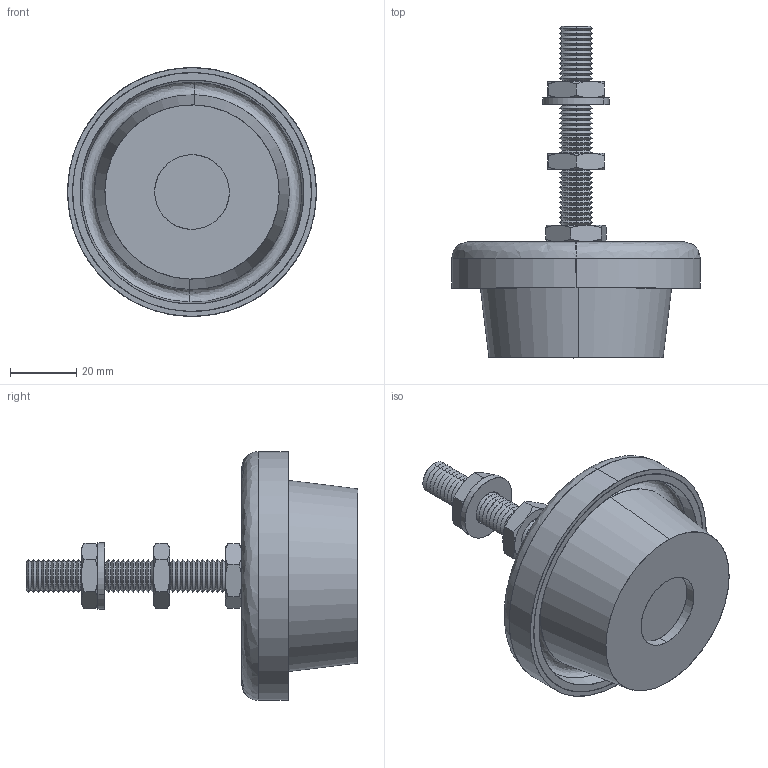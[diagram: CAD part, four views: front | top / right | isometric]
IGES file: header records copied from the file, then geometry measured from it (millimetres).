
Start section: SolidWorks IGES file using analytic representation for surfaces
Global section: file name: C:\Documents and Settings\IANO\Desktop\Temp File\Process pending\EXISTING\34940_v2\34940_v2_20170627_IGES\34940.W0075.igs; native system: SolidWorks 2009; preprocessor: SolidWorks 2009; author: IANO; date: 170626.132422; units: millimetre
Bounding box: 75 x 100 x 75 mm (x, y, z)
Surface area: 48255.5 mm2 (no closed solid volume)
Topology: 0 solids, 0 shells, 362 faces, 3300 edges, 3300 vertices
Faces by surface type: revolution 298, bspline 64
